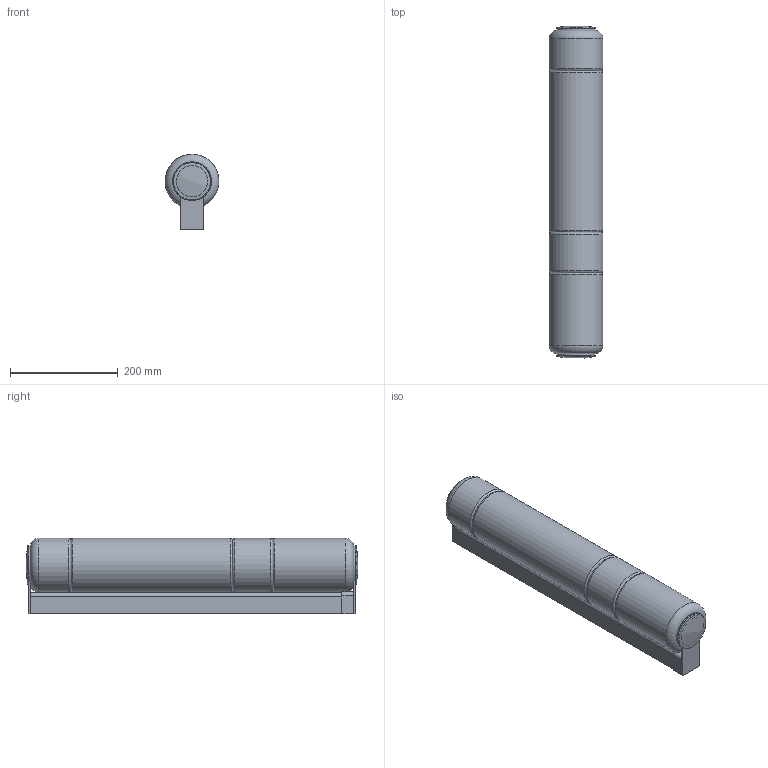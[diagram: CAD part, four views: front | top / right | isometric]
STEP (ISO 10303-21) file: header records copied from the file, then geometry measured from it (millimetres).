
FILE_DESCRIPTION(/* description */ ('APPLIQUE STACKING 60'),/* implementation_level */ '2;1');
FILE_NAME(/* name */ 'STACKING PL 60 EU.stp',/* time_stamp */ '2025-02-05T14:26:02+01:00',/* author */ ('davide.turci'),/* organization */ (''),/* preprocessor_version */ 'ST-DEVELOPER v20',/* originating_system */ 'Autodesk Inventor 2025',/* authorisation */ '');
FILE_SCHEMA (('CONFIG_CONTROL_DESIGN'));
Length unit declared in the file: millimetre
Products named in the file (23): 343AZ2LD; 343C667; 343C600_B1; 343C670; 00343C398; 00343C407-B; 00343V004; 00343V005; 00343V002; 00343V001; 343C439; 343C638; B001; B002; ISO 4026 - M6 x 8(1); 343C668; 343C660-Master; 343C659; 343C657; X0023-020; 343C635-B; 343C671; X0001
Assembly tree (23 placements, depth 3):
  343AZ2LD
    343C667
    343C600_B1
      343C670
      00343C398
      00343C407-B
      00343V004
      00343V005
      00343V002
      00343V001
    343C439
    343C638
    B001
    B002
    ISO 4026 - M6 x 8(1)
    343C668
    343C660-Master
      343C659
      343C657
      X0023-020  x2
    343C635-B
    343C671
    X0001
Bounding box: 100 x 616.22 x 140 mm (x, y, z)
Volume: 1162365.6 mm3; surface area: 950180.4 mm2
Topology: 21 solids, 21 shells, 587 faces, 1457 edges, 939 vertices
Faces by surface type: cylinder 252, plane 228, torus 56, cone 46, sphere 5
Full cylindrical faces by diameter (mm): 2.459 x7, 3 x2, 3.2 x3, 3.4 x3, 3.5 x2, 4 x2, 4.5 x5, 4.917 x1, 5 x3, 5.917 x1, 6 x3, 7 x2, 9 x2, 10 x1, 10.5 x1, 12 x1, 12.917 x1, 13 x2, 14 x1, 15 x5, 20 x1, 54 x1, 55.5 x1, 60 x1, 61.5 x2, 62 x3, 65 x2, 66 x1, 67 x5, 69 x3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
Entity records: 18305 total; most frequent: DIRECTION 3297, CARTESIAN_POINT 2989, ORIENTED_EDGE 2810, EDGE_CURVE 1405, AXIS2_PLACEMENT_3D 1312, VERTEX_POINT 911, CIRCLE 699, EDGE_LOOP 682
